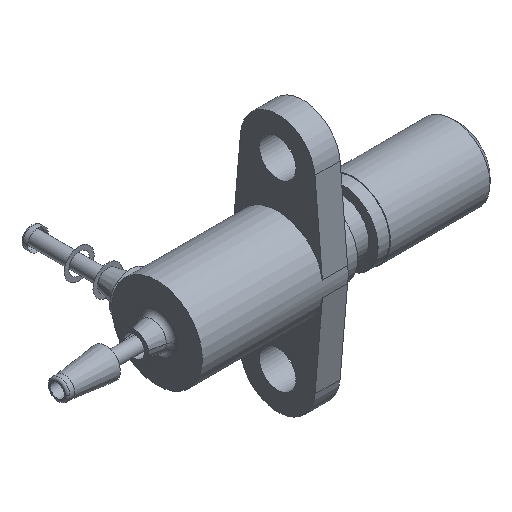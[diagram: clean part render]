
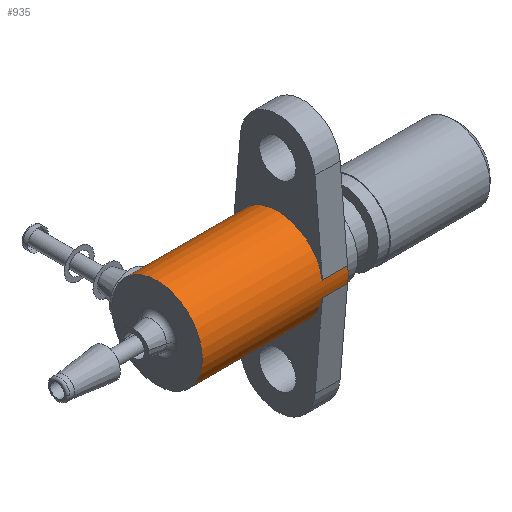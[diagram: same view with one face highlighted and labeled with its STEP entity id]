
A CAD part, isometric view. The second image highlights one B-rep face of the part: STEP entity #935.
In plain terms, the highlighted cylindrical face has radius 3.96 mm (diameter 7.92 mm), a full revolution.
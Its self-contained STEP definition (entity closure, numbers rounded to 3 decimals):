
#60=B_SPLINE_CURVE_WITH_KNOTS('',3,(#1649,#1650,#1651,#1652,#1653,#1654,
#1655,#1656,#1657,#1658,#1659,#1660,#1661,#1662,#1663,#1664,#1665,#1666,
#1667,#1668,#1669,#1670,#1671,#1672,#1673,#1674,#1675,#1676,#1677,#1678,
#1679,#1680,#1681,#1682),.UNSPECIFIED.,.T.,.F.,(4,2,2,2,2,2,2,2,2,2,2,2,
2,2,2,2,4),(-1.135,-1.064,-0.993,-0.922,
-0.851,-0.78,-0.709,-0.638,
-0.567,-0.496,-0.425,-0.354,
-0.284,-0.213,-0.142,-0.071,
0.),.UNSPECIFIED.);
#100=FACE_OUTER_BOUND('',#153,.T.);
#153=EDGE_LOOP('',(#736,#737,#738,#739,#740,#741,#742,#743,#744,#745,#746,
#747,#748,#749));
#219=LINE('',#1703,#258);
#220=LINE('',#1707,#259);
#221=LINE('',#1711,#260);
#222=LINE('',#1715,#261);
#223=LINE('',#1720,#262);
#258=VECTOR('',#1340,2.2);
#259=VECTOR('',#1343,2.2);
#260=VECTOR('',#1346,2.2);
#261=VECTOR('',#1349,3.96);
#262=VECTOR('',#1356,2.2);
#346=CIRCLE('',#1077,3.96);
#347=CIRCLE('',#1078,3.96);
#348=CIRCLE('',#1079,3.96);
#349=CIRCLE('',#1080,3.96);
#350=CIRCLE('',#1081,3.96);
#351=CIRCLE('',#1082,3.96);
#352=CIRCLE('',#1083,3.96);
#441=VERTEX_POINT('',#1648);
#448=VERTEX_POINT('',#1699);
#449=VERTEX_POINT('',#1700);
#450=VERTEX_POINT('',#1702);
#451=VERTEX_POINT('',#1704);
#452=VERTEX_POINT('',#1706);
#453=VERTEX_POINT('',#1708);
#454=VERTEX_POINT('',#1710);
#455=VERTEX_POINT('',#1712);
#456=VERTEX_POINT('',#1714);
#457=VERTEX_POINT('',#1718);
#558=EDGE_CURVE('',#441,#441,#60,.F.);
#567=EDGE_CURVE('',#448,#449,#346,.T.);
#568=EDGE_CURVE('',#450,#449,#219,.T.);
#569=EDGE_CURVE('',#450,#451,#347,.T.);
#570=EDGE_CURVE('',#452,#451,#220,.T.);
#571=EDGE_CURVE('',#452,#453,#348,.T.);
#572=EDGE_CURVE('',#454,#453,#221,.T.);
#573=EDGE_CURVE('',#454,#455,#349,.T.);
#574=EDGE_CURVE('',#455,#456,#222,.T.);
#575=EDGE_CURVE('',#441,#456,#350,.T.);
#576=EDGE_CURVE('',#456,#441,#351,.T.);
#577=EDGE_CURVE('',#455,#457,#352,.T.);
#578=EDGE_CURVE('',#448,#457,#223,.T.);
#736=ORIENTED_EDGE('',*,*,#567,.T.);
#737=ORIENTED_EDGE('',*,*,#568,.F.);
#738=ORIENTED_EDGE('',*,*,#569,.T.);
#739=ORIENTED_EDGE('',*,*,#570,.F.);
#740=ORIENTED_EDGE('',*,*,#571,.T.);
#741=ORIENTED_EDGE('',*,*,#572,.F.);
#742=ORIENTED_EDGE('',*,*,#573,.T.);
#743=ORIENTED_EDGE('',*,*,#574,.T.);
#744=ORIENTED_EDGE('',*,*,#575,.F.);
#745=ORIENTED_EDGE('',*,*,#558,.T.);
#746=ORIENTED_EDGE('',*,*,#576,.F.);
#747=ORIENTED_EDGE('',*,*,#574,.F.);
#748=ORIENTED_EDGE('',*,*,#577,.T.);
#749=ORIENTED_EDGE('',*,*,#578,.F.);
#909=CYLINDRICAL_SURFACE('',#1076,3.96);
#935=ADVANCED_FACE('',(#100),#909,.T.);
#1076=AXIS2_PLACEMENT_3D('',#1698,#1336,#1337);
#1077=AXIS2_PLACEMENT_3D('',#1701,#1338,#1339);
#1078=AXIS2_PLACEMENT_3D('',#1705,#1341,#1342);
#1079=AXIS2_PLACEMENT_3D('',#1709,#1344,#1345);
#1080=AXIS2_PLACEMENT_3D('',#1713,#1347,#1348);
#1081=AXIS2_PLACEMENT_3D('',#1716,#1350,#1351);
#1082=AXIS2_PLACEMENT_3D('',#1717,#1352,#1353);
#1083=AXIS2_PLACEMENT_3D('',#1719,#1354,#1355);
#1336=DIRECTION('center_axis',(1.,0.,0.));
#1337=DIRECTION('ref_axis',(0.,0.,1.));
#1338=DIRECTION('center_axis',(-1.,0.,0.));
#1339=DIRECTION('ref_axis',(0.,-1.,0.));
#1340=DIRECTION('',(1.,0.,0.));
#1341=DIRECTION('center_axis',(-1.,0.,0.));
#1342=DIRECTION('ref_axis',(0.,-0.985,0.17));
#1343=DIRECTION('',(-1.,0.,0.));
#1344=DIRECTION('center_axis',(-1.,0.,0.));
#1345=DIRECTION('ref_axis',(0.,0.985,0.17));
#1346=DIRECTION('',(1.,0.,0.));
#1347=DIRECTION('center_axis',(-1.,0.,0.));
#1348=DIRECTION('ref_axis',(0.,0.985,-0.17));
#1349=DIRECTION('',(-1.,0.,0.));
#1350=DIRECTION('center_axis',(-1.,0.,0.));
#1351=DIRECTION('ref_axis',(0.,-1.,0.));
#1352=DIRECTION('center_axis',(-1.,0.,0.));
#1353=DIRECTION('ref_axis',(0.,-1.,0.));
#1354=DIRECTION('center_axis',(-1.,0.,0.));
#1355=DIRECTION('ref_axis',(0.,0.985,-0.17));
#1356=DIRECTION('',(-1.,0.,0.));
#1648=CARTESIAN_POINT('',(-6.375,3.96,0.));
#1649=CARTESIAN_POINT('Ctrl Pts',(-4.525,3.501,-1.85));
#1650=CARTESIAN_POINT('Ctrl Pts',(-4.762,3.501,-1.85));
#1651=CARTESIAN_POINT('Ctrl Pts',(-5.011,3.528,-1.802));
#1652=CARTESIAN_POINT('Ctrl Pts',(-5.465,3.619,-1.612));
#1653=CARTESIAN_POINT('Ctrl Pts',(-5.671,3.681,-1.471));
#1654=CARTESIAN_POINT('Ctrl Pts',(-5.995,3.794,-1.146));
#1655=CARTESIAN_POINT('Ctrl Pts',(-6.137,3.854,-0.94));
#1656=CARTESIAN_POINT('Ctrl Pts',(-6.327,3.937,-0.486));
#1657=CARTESIAN_POINT('Ctrl Pts',(-6.375,3.96,-0.236));
#1658=CARTESIAN_POINT('Ctrl Pts',(-6.375,3.96,0.236));
#1659=CARTESIAN_POINT('Ctrl Pts',(-6.327,3.937,0.486));
#1660=CARTESIAN_POINT('Ctrl Pts',(-6.137,3.854,0.94));
#1661=CARTESIAN_POINT('Ctrl Pts',(-5.995,3.794,1.146));
#1662=CARTESIAN_POINT('Ctrl Pts',(-5.671,3.681,1.471));
#1663=CARTESIAN_POINT('Ctrl Pts',(-5.465,3.619,1.612));
#1664=CARTESIAN_POINT('Ctrl Pts',(-5.011,3.528,1.802));
#1665=CARTESIAN_POINT('Ctrl Pts',(-4.762,3.501,1.85));
#1666=CARTESIAN_POINT('Ctrl Pts',(-4.288,3.501,1.85));
#1667=CARTESIAN_POINT('Ctrl Pts',(-4.039,3.528,1.802));
#1668=CARTESIAN_POINT('Ctrl Pts',(-3.585,3.619,1.612));
#1669=CARTESIAN_POINT('Ctrl Pts',(-3.379,3.681,1.471));
#1670=CARTESIAN_POINT('Ctrl Pts',(-3.055,3.794,1.146));
#1671=CARTESIAN_POINT('Ctrl Pts',(-2.913,3.854,0.94));
#1672=CARTESIAN_POINT('Ctrl Pts',(-2.723,3.937,0.486));
#1673=CARTESIAN_POINT('Ctrl Pts',(-2.675,3.96,0.236));
#1674=CARTESIAN_POINT('Ctrl Pts',(-2.675,3.96,-0.236));
#1675=CARTESIAN_POINT('Ctrl Pts',(-2.723,3.937,-0.486));
#1676=CARTESIAN_POINT('Ctrl Pts',(-2.913,3.854,-0.94));
#1677=CARTESIAN_POINT('Ctrl Pts',(-3.055,3.794,-1.146));
#1678=CARTESIAN_POINT('Ctrl Pts',(-3.379,3.681,-1.471));
#1679=CARTESIAN_POINT('Ctrl Pts',(-3.585,3.619,-1.612));
#1680=CARTESIAN_POINT('Ctrl Pts',(-4.039,3.528,-1.802));
#1681=CARTESIAN_POINT('Ctrl Pts',(-4.288,3.501,-1.85));
#1682=CARTESIAN_POINT('Ctrl Pts',(-4.525,3.501,-1.85));
#1698=CARTESIAN_POINT('Origin',(6.375,0.,0.));
#1699=CARTESIAN_POINT('',(6.375,-3.902,-0.674));
#1700=CARTESIAN_POINT('',(6.375,-3.902,0.674));
#1701=CARTESIAN_POINT('Origin',(6.375,0.,0.));
#1702=CARTESIAN_POINT('',(4.175,-3.902,0.674));
#1703=CARTESIAN_POINT('',(4.175,-3.902,0.674));
#1704=CARTESIAN_POINT('',(4.175,3.902,0.674));
#1705=CARTESIAN_POINT('Origin',(4.175,0.,0.));
#1706=CARTESIAN_POINT('',(6.375,3.902,0.674));
#1707=CARTESIAN_POINT('',(6.375,3.902,0.674));
#1708=CARTESIAN_POINT('',(6.375,3.902,-0.674));
#1709=CARTESIAN_POINT('Origin',(6.375,0.,0.));
#1710=CARTESIAN_POINT('',(4.175,3.902,-0.674));
#1711=CARTESIAN_POINT('',(4.175,3.902,-0.674));
#1712=CARTESIAN_POINT('',(4.175,0.,-3.96));
#1713=CARTESIAN_POINT('Origin',(4.175,0.,0.));
#1714=CARTESIAN_POINT('',(-6.375,0.,-3.96));
#1715=CARTESIAN_POINT('',(6.375,0.,-3.96));
#1716=CARTESIAN_POINT('Origin',(-6.375,0.,0.));
#1717=CARTESIAN_POINT('Origin',(-6.375,0.,0.));
#1718=CARTESIAN_POINT('',(4.175,-3.902,-0.674));
#1719=CARTESIAN_POINT('Origin',(4.175,0.,0.));
#1720=CARTESIAN_POINT('',(6.375,-3.902,-0.674));
